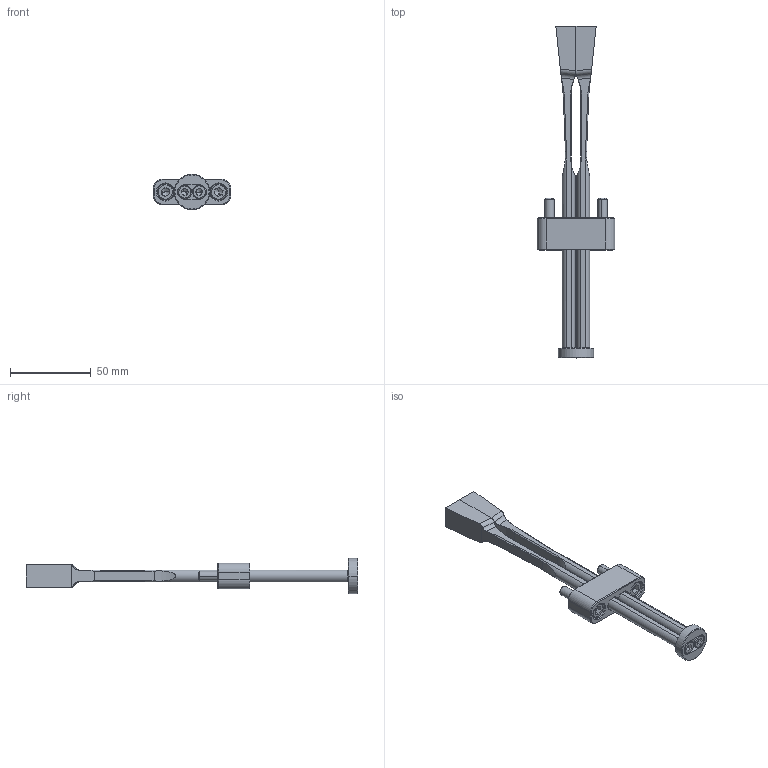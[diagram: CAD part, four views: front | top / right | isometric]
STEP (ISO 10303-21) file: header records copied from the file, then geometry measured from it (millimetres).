
FILE_DESCRIPTION (( 'STEP AP203' ), '1' );
FILE_NAME ('FCDA12X14L200.step', '2015-12-03T17:18:36', ( '' ), ( '' ), 'SwSTEP 2.0', 'SolidWorks 2014', '' );
FILE_SCHEMA (( 'CONFIG_CONTROL_DESIGN' ));
Length unit declared in the file: millimetre
Products named in the file (6): FCDBG-12; FCDHP-5; LOW-HD-SHCS-M5X16; FC12X14L200; FCDA12X14L200; SHCS-M6X25
Assembly tree (8 placements, depth 2):
  FCDA12X14L200
    FC12X14L200  x2
    FCDHP-5
    FCDBG-12
    SHCS-M6X25  x2
    LOW-HD-SHCS-M5X16  x2
Bounding box: 47.96 x 205.99 x 22 mm (x, y, z)
Volume: 38497.8 mm3; surface area: 21757.8 mm2
Topology: 8 solids, 8 shells, 280 faces, 649 edges, 386 vertices
Faces by surface type: plane 115, cone 76, cylinder 73, bspline 8, torus 8
Entity records: 6120 total; most frequent: CARTESIAN_POINT 1297, DIRECTION 885, ORIENTED_EDGE 834, EDGE_CURVE 417, AXIS2_PLACEMENT_3D 340, VERTEX_POINT 251, LINE 205, VECTOR 205
